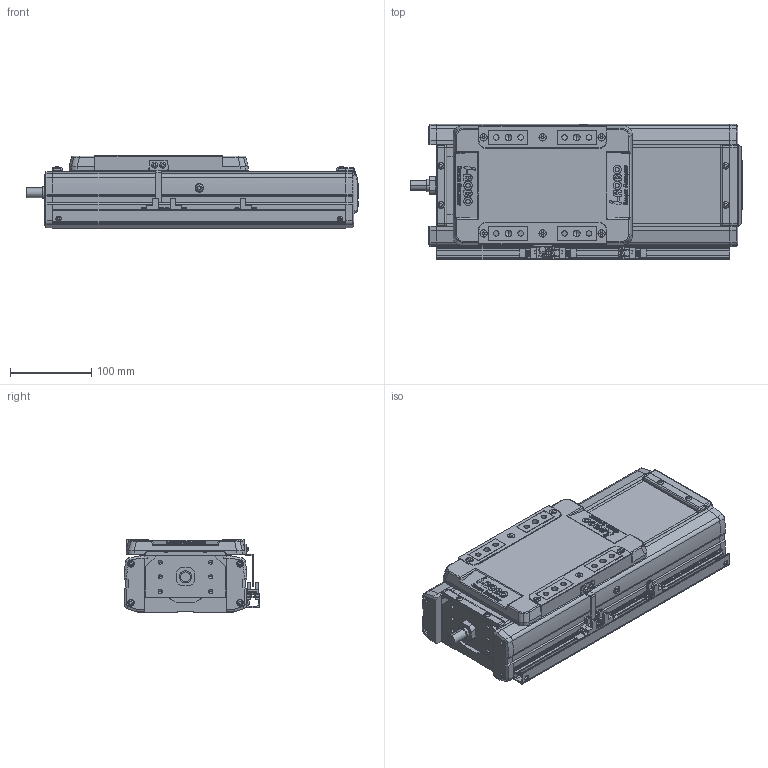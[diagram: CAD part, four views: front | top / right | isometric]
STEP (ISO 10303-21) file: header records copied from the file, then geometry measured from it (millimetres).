
FILE_DESCRIPTION(('STEP AP214'),'1');
FILE_NAME('Z:/Web/3D/SAN150/2013.04 (STP.)/SAN150ㅁㅁ-100+3SR.stp','2013-05-08T02:37:08',(' '),(' '),'Spatial InterOp 3D',' ',' ');
FILE_SCHEMA(('automotive_design'));
Length unit declared in the file: millimetre
Products named in the file (51): M3.0 x 6.0; SRL-16x17-360L; SGD-SAN150; EE-SX674; SBK-SX674-352; 스크루 : Round - M3.0 x 6.0; BHCS M4.0 x 10.0; SLBL-SAN150; SLCV-SAN150; FHCS M4.0 x 8.0; SFX-SAN150; RRCV-SAN150; FRBL-SAN150; Spacer; RN15; FRCV-SAN150; Screw 20; BASE-SAN150-000L ; SUS COVER; 스크루 : Round - M5.0 x 6.0
Bounding box: 408 x 166 x 90 mm (x, y, z)
Volume: 2805104.2 mm3; surface area: 577996.9 mm2
Topology: 51 solids, 51 shells, 2396 faces, 6193 edges, 3994 vertices
Faces by surface type: plane 1314, cylinder 763, cone 222, sphere 64, bspline 21, torus 12
Entity records: 94769 total; most frequent: CARTESIAN_POINT 14768, DIRECTION 13010, ORIENTED_EDGE 12210, EDGE_CURVE 6105, AXIS2_PLACEMENT_3D 4543, VERTEX_POINT 3994, LINE 3924, VECTOR 3924
